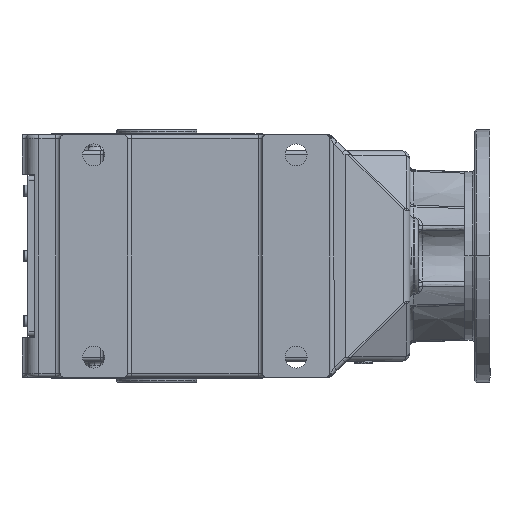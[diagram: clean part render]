
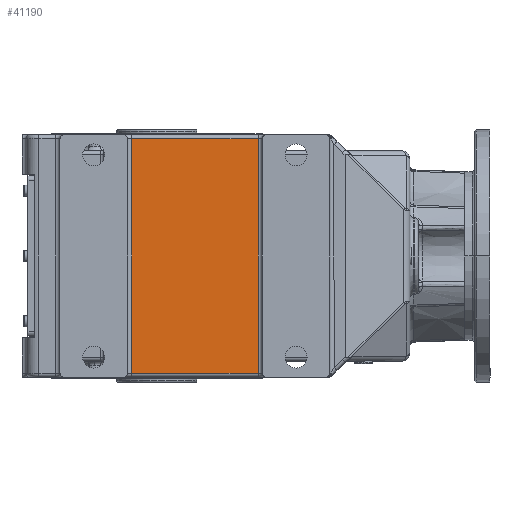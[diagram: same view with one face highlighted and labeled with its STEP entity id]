
A CAD part, front view. The second image highlights one B-rep face of the part: STEP entity #41190.
In plain terms, the highlighted planar face has unit normal (0, -1, 0).
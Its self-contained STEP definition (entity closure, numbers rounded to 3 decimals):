
#41132 = ORIENTED_EDGE ( 'NONE', *, *, #41182, .T. ) ;
#41138 = VERTEX_POINT ( 'NONE', #60507 ) ;
#41162 = VERTEX_POINT ( 'NONE', #60554 ) ;
#41163 = VERTEX_POINT ( 'NONE', #60553 ) ;
#41181 = VERTEX_POINT ( 'NONE', #60609 ) ;
#41182 = EDGE_CURVE ( 'NONE', #41181, #41138, #60599, .T. ) ;
#41183 = EDGE_CURVE ( 'NONE', #41138, #41162, #60585, .T. ) ;
#41184 = ORIENTED_EDGE ( 'NONE', *, *, #41183, .T. ) ;
#41188 = ORIENTED_EDGE ( 'NONE', *, *, #41452, .T. ) ;
#41190 = ADVANCED_FACE ( 'NONE', ( #60695 ), #60580, .F. ) ;
#41191 = ORIENTED_EDGE ( 'NONE', *, *, #41469, .T. ) ;
#41195 = EDGE_LOOP ( 'NONE', ( #41132, #41184, #41191, #41188 ) ) ;
#41452 = EDGE_CURVE ( 'NONE', #41163, #41181, #62051, .T. ) ;
#41469 = EDGE_CURVE ( 'NONE', #41162, #41163, #62191, .T. ) ;
#60507 = CARTESIAN_POINT ( 'NONE',  ( 139., -260., 30. ) ) ;
#60553 = CARTESIAN_POINT ( 'NONE',  ( -139., -260., -120. ) ) ;
#60554 = CARTESIAN_POINT ( 'NONE',  ( -139., -260., 30. ) ) ;
#60576 = DIRECTION ( 'NONE',  ( -1., 0., 0. ) ) ;
#60577 = VECTOR ( 'NONE', #60576, 1000. ) ;
#60578 = CARTESIAN_POINT ( 'NONE',  ( -144., -260., 30. ) ) ;
#60580 = PLANE ( 'NONE',  #60596 ) ;
#60583 = CARTESIAN_POINT ( 'NONE',  ( 144., -260., -125. ) ) ;
#60585 = LINE ( 'NONE', #60578, #60577 ) ;
#60588 = VECTOR ( 'NONE', #60636, 1000. ) ;
#60596 = AXIS2_PLACEMENT_3D ( 'NONE', #60583, #60700, #60669 ) ;
#60599 = LINE ( 'NONE', #60637, #60588 ) ;
#60609 = CARTESIAN_POINT ( 'NONE',  ( 139., -260., -120. ) ) ;
#60636 = DIRECTION ( 'NONE',  ( 0., 0., 1. ) ) ;
#60637 = CARTESIAN_POINT ( 'NONE',  ( 139., -260., -125. ) ) ;
#60669 = DIRECTION ( 'NONE',  ( 0., 0., 1. ) ) ;
#60695 = FACE_OUTER_BOUND ( 'NONE', #41195, .T. ) ;
#60700 = DIRECTION ( 'NONE',  ( 0., 1., 0. ) ) ;
#62038 = DIRECTION ( 'NONE',  ( 1., 0., 0. ) ) ;
#62040 = VECTOR ( 'NONE', #62038, 1000. ) ;
#62041 = CARTESIAN_POINT ( 'NONE',  ( 144., -260., -120. ) ) ;
#62051 = LINE ( 'NONE', #62041, #62040 ) ;
#62155 = DIRECTION ( 'NONE',  ( 0., 0., -1. ) ) ;
#62159 = VECTOR ( 'NONE', #62155, 1000. ) ;
#62191 = LINE ( 'NONE', #62197, #62159 ) ;
#62197 = CARTESIAN_POINT ( 'NONE',  ( -139., -260., -125. ) ) ;
